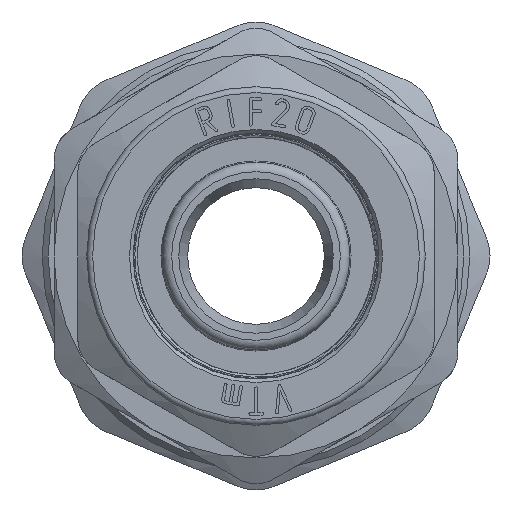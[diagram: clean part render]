
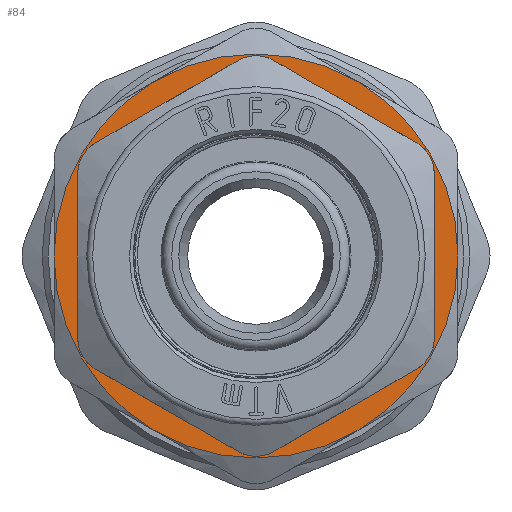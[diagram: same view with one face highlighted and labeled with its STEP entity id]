
A CAD part, front view. The second image highlights one B-rep face of the part: STEP entity #84.
In plain terms, the highlighted planar face has unit normal (0, -1, 0).
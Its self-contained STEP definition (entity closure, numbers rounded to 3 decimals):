
#84=ADVANCED_FACE('',(#907,#909),#911,.F.);
#907=FACE_BOUND('',#908,.T.);
#908=EDGE_LOOP('',(#5021,#5022,#5023));
#909=FACE_BOUND('',#910,.T.);
#910=EDGE_LOOP('',(#5024));
#911=PLANE('',#912);
#912=AXIS2_PLACEMENT_3D('',#913,#914,#915);
#913=CARTESIAN_POINT('',(0.,-3.75,0.));
#914=DIRECTION('',(0.,1.,0.));
#915=DIRECTION('',(-1.,0.,0.));
#5021=ORIENTED_EDGE('',*,*,#8760,.T.);
#5022=ORIENTED_EDGE('',*,*,#8761,.T.);
#5023=ORIENTED_EDGE('',*,*,#8762,.T.);
#5024=ORIENTED_EDGE('',*,*,#8579,.F.);
#8579=EDGE_CURVE('',#10124,#10124,#10125,.T.);
#8760=EDGE_CURVE('',#10476,#10477,#10478,.F.);
#8761=EDGE_CURVE('',#10477,#10479,#10480,.F.);
#8762=EDGE_CURVE('',#10479,#10476,#10481,.F.);
#10124=VERTEX_POINT('',#12772);
#10125=CIRCLE('',#12773,13.221);
#10476=VERTEX_POINT('',#14746);
#10477=VERTEX_POINT('',#14747);
#10478=CIRCLE('',#14748,17.);
#10479=VERTEX_POINT('',#14752);
#10480=CIRCLE('',#14753,17.);
#10481=CIRCLE('',#14757,17.);
#12772=CARTESIAN_POINT('',(13.221,-3.75,0.));
#12773=AXIS2_PLACEMENT_3D('',#12774,#12775,#12776);
#12774=CARTESIAN_POINT('',(0.,-3.75,0.));
#12775=DIRECTION('',(0.,-1.,0.));
#12776=DIRECTION('',(1.,0.,0.));
#14746=CARTESIAN_POINT('',(17.,-3.75,0.));
#14747=CARTESIAN_POINT('',(-17.,-3.75,0.));
#14748=AXIS2_PLACEMENT_3D('',#14749,#14750,#14751);
#14749=CARTESIAN_POINT('',(0.,-3.75,0.));
#14750=DIRECTION('',(0.,1.,0.));
#14751=DIRECTION('',(-1.,0.,0.));
#14752=CARTESIAN_POINT('',(-8.5,-3.75,-14.722));
#14753=AXIS2_PLACEMENT_3D('',#14754,#14755,#14756);
#14754=CARTESIAN_POINT('',(0.,-3.75,0.));
#14755=DIRECTION('',(0.,1.,0.));
#14756=DIRECTION('',(-0.5,0.,-0.866));
#14757=AXIS2_PLACEMENT_3D('',#14758,#14759,#14760);
#14758=CARTESIAN_POINT('',(0.,-3.75,0.));
#14759=DIRECTION('',(0.,1.,0.));
#14760=DIRECTION('',(1.,0.,0.));
